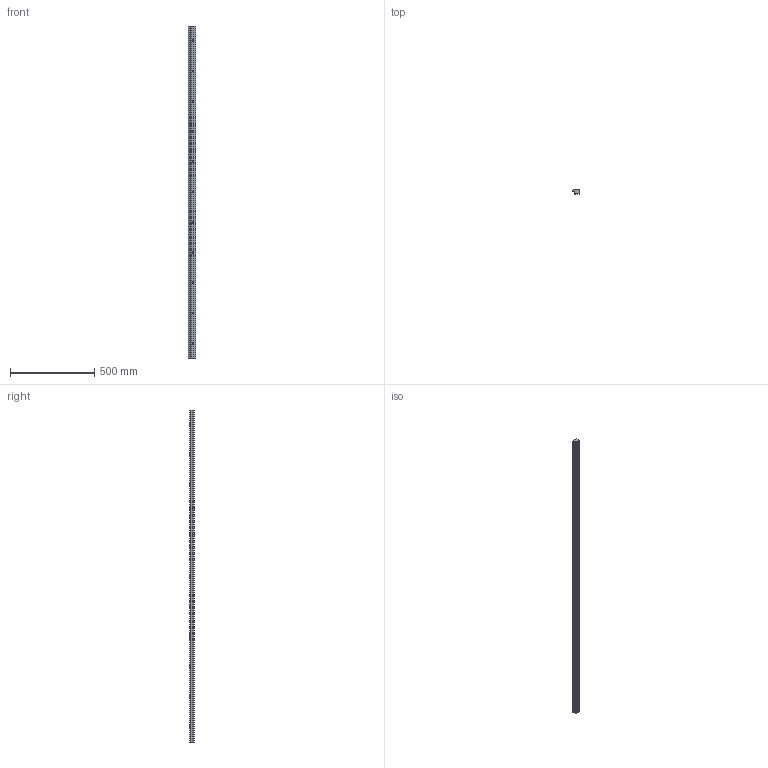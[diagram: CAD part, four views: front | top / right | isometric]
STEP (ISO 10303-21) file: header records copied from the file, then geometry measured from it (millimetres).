
FILE_DESCRIPTION(('STEP AP203'),'1');
FILE_NAME('slide_nlel1976p1.stp','2022-07-04T01:24:09',('TraceParts'),('TraceParts S.A.'),'Spatial InterOp 3D',' ',' ');
FILE_SCHEMA(('CONFIG_CONTROL_DESIGN'));
Length unit declared in the file: millimetre
Products named in the file (1): 1
Bounding box: 42.8 x 24 x 1976 mm (x, y, z)
Volume: 1457166.7 mm3; surface area: 277544.2 mm2
Topology: 1 solids, 1 shells, 77 faces, 192 edges, 128 vertices
Faces by surface type: cylinder 53, plane 24
Entity records: 2440 total; most frequent: DIRECTION 454, CARTESIAN_POINT 398, ORIENTED_EDGE 384, EDGE_CURVE 192, AXIS2_PLACEMENT_3D 184, VERTEX_POINT 128, EDGE_LOOP 110, CIRCLE 106
